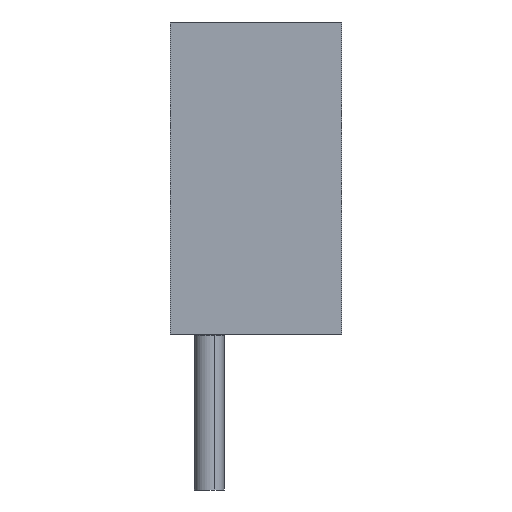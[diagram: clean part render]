
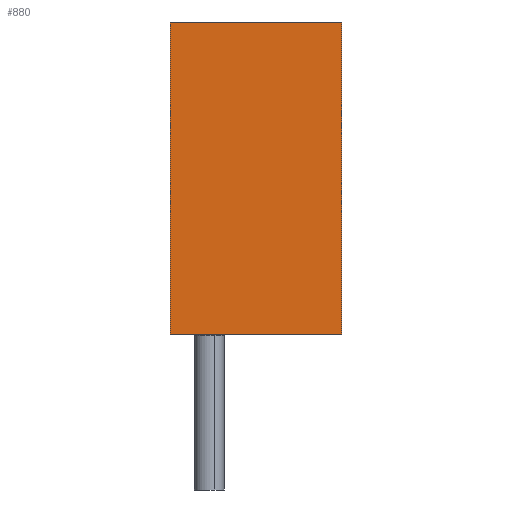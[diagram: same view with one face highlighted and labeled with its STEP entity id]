
A CAD part, left-side view. The second image highlights one B-rep face of the part: STEP entity #880.
In plain terms, the highlighted planar face has unit normal (-1, 0, 0).
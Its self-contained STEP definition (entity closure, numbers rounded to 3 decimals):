
#303 = ORIENTED_EDGE ( 'NONE', *, *, #853, .T. ) ;
#304 = ORIENTED_EDGE ( 'NONE', *, *, #808, .F. ) ;
#306 = ORIENTED_EDGE ( 'NONE', *, *, #855, .F. ) ;
#326 = ORIENTED_EDGE ( 'NONE', *, *, #825, .T. ) ;
#366 = EDGE_LOOP ( 'NONE', ( #326, #306, #304, #303 ) ) ;
#565 = VECTOR ( 'NONE', #1470, 1000. ) ;
#585 = VECTOR ( 'NONE', #1528, 1000. ) ;
#647 = AXIS2_PLACEMENT_3D ( 'NONE', #1698, #1710, #1711 ) ;
#652 = VECTOR ( 'NONE', #1616, 1000. ) ;
#669 = VECTOR ( 'NONE', #1610, 1000. ) ;
#808 = EDGE_CURVE ( 'NONE', #1136, #1133, #1468, .T. ) ;
#825 = EDGE_CURVE ( 'NONE', #1161, #1167, #1521, .T. ) ;
#853 = EDGE_CURVE ( 'NONE', #1136, #1161, #1602, .T. ) ;
#855 = EDGE_CURVE ( 'NONE', #1133, #1167, #1614, .T. ) ;
#880 = ADVANCED_FACE ( 'NONE', ( #1704 ), #1705, .F. ) ;
#1133 = VERTEX_POINT ( 'NONE', #2527 ) ;
#1136 = VERTEX_POINT ( 'NONE', #2530 ) ;
#1161 = VERTEX_POINT ( 'NONE', #2555 ) ;
#1167 = VERTEX_POINT ( 'NONE', #2561 ) ;
#1468 = LINE ( 'NONE', #1469, #565 ) ;
#1469 = CARTESIAN_POINT ( 'NONE',  ( -65., 11., 40. ) ) ;
#1470 = DIRECTION ( 'NONE',  ( 0., -1., 0. ) ) ;
#1521 = LINE ( 'NONE', #1526, #585 ) ;
#1526 = CARTESIAN_POINT ( 'NONE',  ( -65., 11., 0. ) ) ;
#1528 = DIRECTION ( 'NONE',  ( 0., -1., 0. ) ) ;
#1602 = LINE ( 'NONE', #1603, #669 ) ;
#1603 = CARTESIAN_POINT ( 'NONE',  ( -65., 11., 40. ) ) ;
#1610 = DIRECTION ( 'NONE',  ( 0., 0., -1. ) ) ;
#1614 = LINE ( 'NONE', #1615, #652 ) ;
#1615 = CARTESIAN_POINT ( 'NONE',  ( -65., -11., 40. ) ) ;
#1616 = DIRECTION ( 'NONE',  ( 0., 0., -1. ) ) ;
#1698 = CARTESIAN_POINT ( 'NONE',  ( -65., 11., 40. ) ) ;
#1704 = FACE_OUTER_BOUND ( 'NONE', #366, .T. ) ;
#1705 = PLANE ( 'NONE',  #647 ) ;
#1710 = DIRECTION ( 'NONE',  ( 1., 0., 0. ) ) ;
#1711 = DIRECTION ( 'NONE',  ( 0., 0., -1. ) ) ;
#2527 = CARTESIAN_POINT ( 'NONE',  ( -65., -11., 40. ) ) ;
#2530 = CARTESIAN_POINT ( 'NONE',  ( -65., 11., 40. ) ) ;
#2555 = CARTESIAN_POINT ( 'NONE',  ( -65., 11., 0. ) ) ;
#2561 = CARTESIAN_POINT ( 'NONE',  ( -65., -11., 0. ) ) ;
